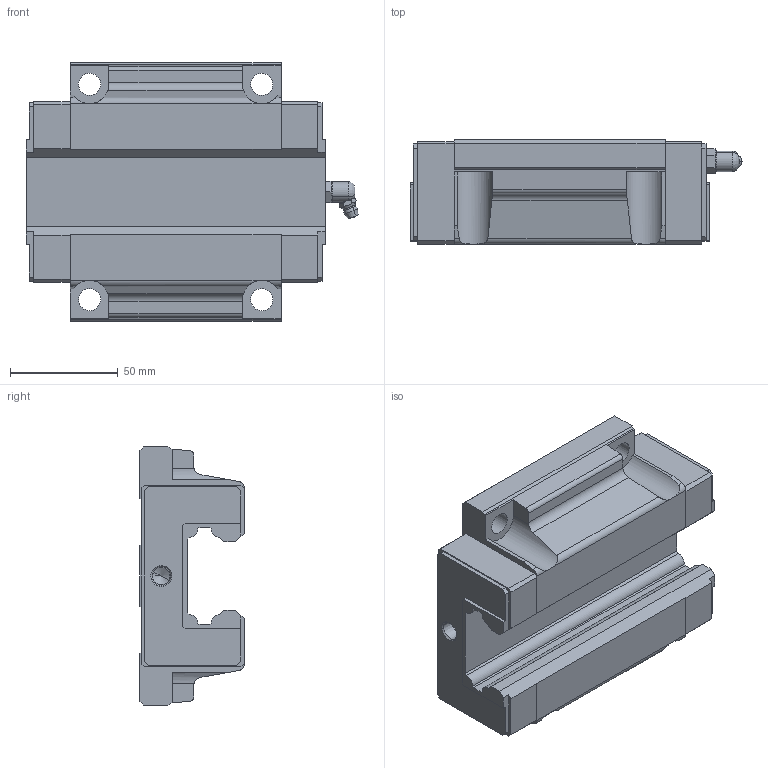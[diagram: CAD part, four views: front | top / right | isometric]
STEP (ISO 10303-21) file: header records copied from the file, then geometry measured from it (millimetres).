
FILE_DESCRIPTION(('CATIA V5 STEP Exchange'),'2;1');
FILE_NAME('C:\Users\14044\Desktop\HSV45C1SS+3000L\HSV45CSS_BLOCK_B-PT1_8.stp','2015-12-07T01:29:48+00:00',('none'),('none'),'Version 5-6 Release 2012','CATIA V5 STEP AP203','none');
FILE_SCHEMA(('CONFIG_CONTROL_DESIGN'));
Length unit declared in the file: millimetre
Products named in the file (1): HSV45CSS_BLOCK_B-PT1_8
Assembly tree (2 placements, depth 2):
  HSV45CSS_BLOCK_B-PT1_8
    #57
    #4808
Bounding box: 154.2 x 48.5 x 120 mm (x, y, z)
Volume: 492583.1 mm3; surface area: 61917.1 mm2
Topology: 2 solids, 2 shells, 197 faces, 541 edges, 425 vertices
Faces by surface type: plane 131, cone 32, cylinder 24, sphere 4, torus 4, revolution 2
Entity records: 6176 total; most frequent: CARTESIAN_POINT 1502, ORIENTED_EDGE 1070, DIRECTION 744, EDGE_CURVE 535, VECTOR 382, LINE 382, VERTEX_POINT 347, AXIS2_PLACEMENT_3D 231
